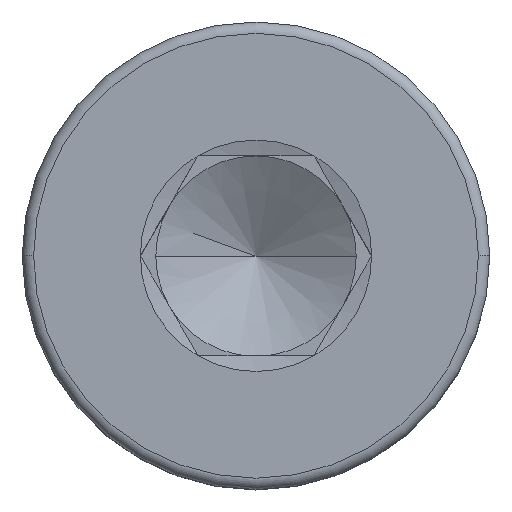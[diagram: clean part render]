
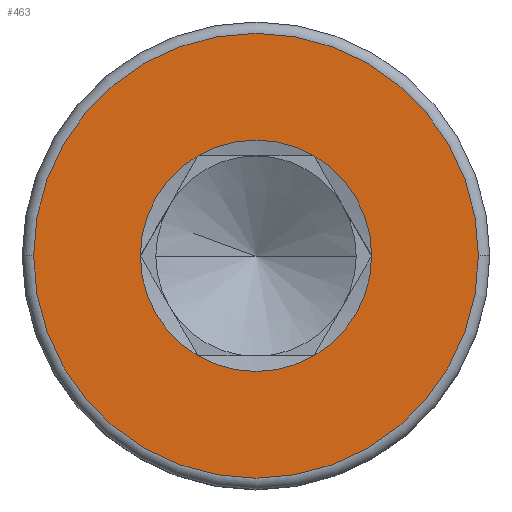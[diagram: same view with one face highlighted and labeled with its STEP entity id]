
A CAD part, top view. The second image highlights one B-rep face of the part: STEP entity #463.
In plain terms, the highlighted planar face has unit normal (0, 0, 1).
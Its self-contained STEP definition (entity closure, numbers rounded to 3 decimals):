
#17 = ORIENTED_EDGE ( 'NONE', *, *, #476, .F. ) ;
#23 = CARTESIAN_POINT ( 'NONE',  ( 0.866, 1.5, 4. ) ) ;
#32 = AXIS2_PLACEMENT_3D ( 'NONE', #835, #679, #1511 ) ;
#86 = AXIS2_PLACEMENT_3D ( 'NONE', #632, #1173, #481 ) ;
#111 = ORIENTED_EDGE ( 'NONE', *, *, #718, .T. ) ;
#171 = DIRECTION ( 'NONE',  ( 0., 0., 1. ) ) ;
#198 = CARTESIAN_POINT ( 'NONE',  ( 0.866, -1.5, 4. ) ) ;
#233 = DIRECTION ( 'NONE',  ( 1., 0., 0. ) ) ;
#259 = ORIENTED_EDGE ( 'NONE', *, *, #336, .F. ) ;
#264 = EDGE_LOOP ( 'NONE', ( #111, #1200 ) ) ;
#291 = AXIS2_PLACEMENT_3D ( 'NONE', #1659, #425, #973 ) ;
#305 = CARTESIAN_POINT ( 'NONE',  ( 0., 0., 4. ) ) ;
#322 = PLANE ( 'NONE',  #1296 ) ;
#329 = DIRECTION ( 'NONE',  ( 0., 0., 1. ) ) ;
#336 = EDGE_CURVE ( 'NONE', #1657, #449, #461, .T. ) ;
#370 = CIRCLE ( 'NONE', #1467, 1.732 ) ;
#401 = DIRECTION ( 'NONE',  ( 1., 0., 0. ) ) ;
#411 = CIRCLE ( 'NONE', #525, 3.33 ) ;
#425 = DIRECTION ( 'NONE',  ( 0., 0., 1. ) ) ;
#449 = VERTEX_POINT ( 'NONE', #1553 ) ;
#461 = CIRCLE ( 'NONE', #32, 1.732 ) ;
#463 = ADVANCED_FACE ( 'NONE', ( #746, #600 ), #322, .T. ) ;
#476 = EDGE_CURVE ( 'NONE', #677, #656, #370, .T. ) ;
#481 = DIRECTION ( 'NONE',  ( 1., 0., 0. ) ) ;
#522 = CIRCLE ( 'NONE', #780, 1.732 ) ;
#525 = AXIS2_PLACEMENT_3D ( 'NONE', #1470, #1049, #233 ) ;
#590 = DIRECTION ( 'NONE',  ( 0., 0., 1. ) ) ;
#600 = FACE_BOUND ( 'NONE', #1760, .T. ) ;
#602 = ORIENTED_EDGE ( 'NONE', *, *, #1157, .F. ) ;
#632 = CARTESIAN_POINT ( 'NONE',  ( 0., 0., 4. ) ) ;
#656 = VERTEX_POINT ( 'NONE', #23 ) ;
#677 = VERTEX_POINT ( 'NONE', #858 ) ;
#679 = DIRECTION ( 'NONE',  ( 0., 0., 1. ) ) ;
#718 = EDGE_CURVE ( 'NONE', #1345, #1178, #926, .T. ) ;
#722 = CARTESIAN_POINT ( 'NONE',  ( 0., 0., 4. ) ) ;
#740 = EDGE_CURVE ( 'NONE', #656, #1225, #1415, .T. ) ;
#745 = CARTESIAN_POINT ( 'NONE',  ( -3.33, 0., 4. ) ) ;
#746 = FACE_OUTER_BOUND ( 'NONE', #264, .T. ) ;
#780 = AXIS2_PLACEMENT_3D ( 'NONE', #305, #590, #1135 ) ;
#815 = ORIENTED_EDGE ( 'NONE', *, *, #1111, .F. ) ;
#835 = CARTESIAN_POINT ( 'NONE',  ( 0., 0., 4. ) ) ;
#858 = CARTESIAN_POINT ( 'NONE',  ( 1.732, 0., 4. ) ) ;
#889 = CARTESIAN_POINT ( 'NONE',  ( 3.33, 0., 4. ) ) ;
#900 = CARTESIAN_POINT ( 'NONE',  ( 0., 0., 4. ) ) ;
#926 = CIRCLE ( 'NONE', #1385, 3.33 ) ;
#973 = DIRECTION ( 'NONE',  ( 1., 0., 0. ) ) ;
#1049 = DIRECTION ( 'NONE',  ( 0., 0., 1. ) ) ;
#1085 = CARTESIAN_POINT ( 'NONE',  ( 0., 0., 4. ) ) ;
#1111 = EDGE_CURVE ( 'NONE', #1225, #1657, #1731, .T. ) ;
#1135 = DIRECTION ( 'NONE',  ( 1., 0., 0. ) ) ;
#1157 = EDGE_CURVE ( 'NONE', #449, #1194, #522, .T. ) ;
#1173 = DIRECTION ( 'NONE',  ( 0., 0., 1. ) ) ;
#1178 = VERTEX_POINT ( 'NONE', #745 ) ;
#1182 = CIRCLE ( 'NONE', #86, 1.732 ) ;
#1194 = VERTEX_POINT ( 'NONE', #198 ) ;
#1200 = ORIENTED_EDGE ( 'NONE', *, *, #1655, .T. ) ;
#1225 = VERTEX_POINT ( 'NONE', #1597 ) ;
#1238 = ORIENTED_EDGE ( 'NONE', *, *, #740, .F. ) ;
#1269 = EDGE_CURVE ( 'NONE', #1194, #677, #1182, .T. ) ;
#1276 = ORIENTED_EDGE ( 'NONE', *, *, #1269, .F. ) ;
#1289 = CARTESIAN_POINT ( 'NONE',  ( 0., 0., 4. ) ) ;
#1296 = AXIS2_PLACEMENT_3D ( 'NONE', #1289, #1426, #1306 ) ;
#1306 = DIRECTION ( 'NONE',  ( 1., 0., 0. ) ) ;
#1345 = VERTEX_POINT ( 'NONE', #889 ) ;
#1385 = AXIS2_PLACEMENT_3D ( 'NONE', #1085, #1636, #401 ) ;
#1413 = DIRECTION ( 'NONE',  ( 1., 0., 0. ) ) ;
#1415 = CIRCLE ( 'NONE', #291, 1.732 ) ;
#1426 = DIRECTION ( 'NONE',  ( 0., 0., 1. ) ) ;
#1432 = DIRECTION ( 'NONE',  ( 1., 0., 0. ) ) ;
#1467 = AXIS2_PLACEMENT_3D ( 'NONE', #900, #329, #1432 ) ;
#1470 = CARTESIAN_POINT ( 'NONE',  ( 0., 0., 4. ) ) ;
#1511 = DIRECTION ( 'NONE',  ( 1., 0., 0. ) ) ;
#1553 = CARTESIAN_POINT ( 'NONE',  ( -0.866, -1.5, 4. ) ) ;
#1580 = CARTESIAN_POINT ( 'NONE',  ( -1.732, 0., 4. ) ) ;
#1597 = CARTESIAN_POINT ( 'NONE',  ( -0.866, 1.5, 4. ) ) ;
#1636 = DIRECTION ( 'NONE',  ( 0., 0., 1. ) ) ;
#1655 = EDGE_CURVE ( 'NONE', #1178, #1345, #411, .T. ) ;
#1657 = VERTEX_POINT ( 'NONE', #1580 ) ;
#1659 = CARTESIAN_POINT ( 'NONE',  ( 0., 0., 4. ) ) ;
#1705 = AXIS2_PLACEMENT_3D ( 'NONE', #722, #171, #1413 ) ;
#1731 = CIRCLE ( 'NONE', #1705, 1.732 ) ;
#1760 = EDGE_LOOP ( 'NONE', ( #17, #1276, #602, #259, #815, #1238 ) ) ;
